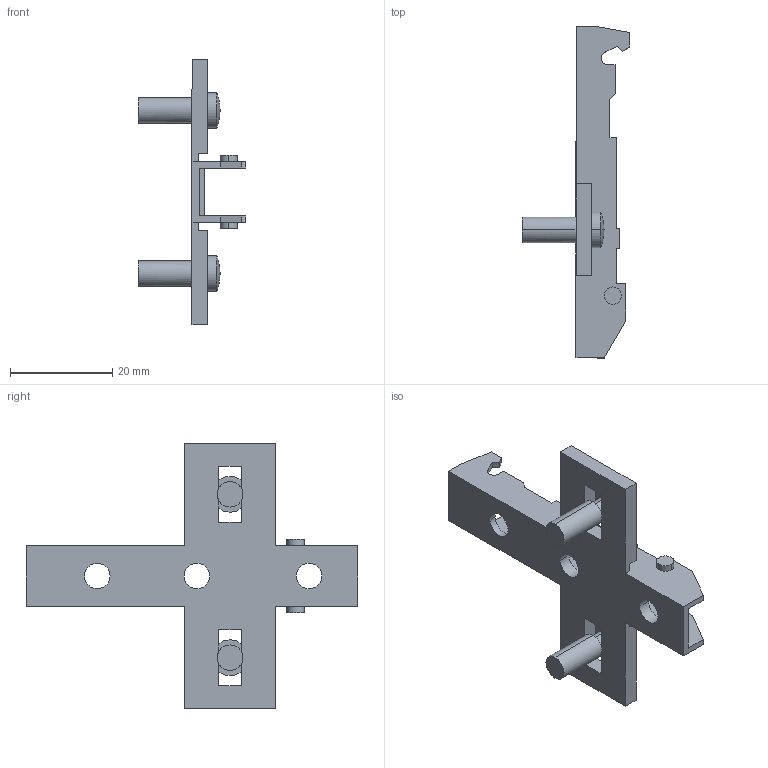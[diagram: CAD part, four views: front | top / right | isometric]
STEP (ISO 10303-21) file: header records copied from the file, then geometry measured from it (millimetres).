
FILE_DESCRIPTION (( 'STEP AP214' ), '1' );
FILE_NAME ('Eco Kreuzmontageplatte LR37_32_Dübel 5mm_lang_H00.step', '2010-11-18T10:07:32', ( 'grass' ), ( '' ), 'SwSTEP 2.0', 'SolidWorks 2010', '' );
FILE_SCHEMA (( 'AUTOMOTIVE_DESIGN' ));
Length unit declared in the file: millimetre
Products named in the file (1): Eco Kreuzmontageplatte LR37_32_Dübel 5mm_lang_H00
Bounding box: 21 x 65 x 52 mm (x, y, z)
Volume: 4699.5 mm3; surface area: 5897.5 mm2
Topology: 1 solids, 1 shells, 104 faces, 306 edges, 198 vertices
Faces by surface type: plane 76, cylinder 24, sphere 4
Entity records: 3512 total; most frequent: ORIENTED_EDGE 612, CARTESIAN_POINT 609, DIRECTION 584, EDGE_CURVE 306, LINE 238, VECTOR 238, VERTEX_POINT 198, AXIS2_PLACEMENT_3D 173
